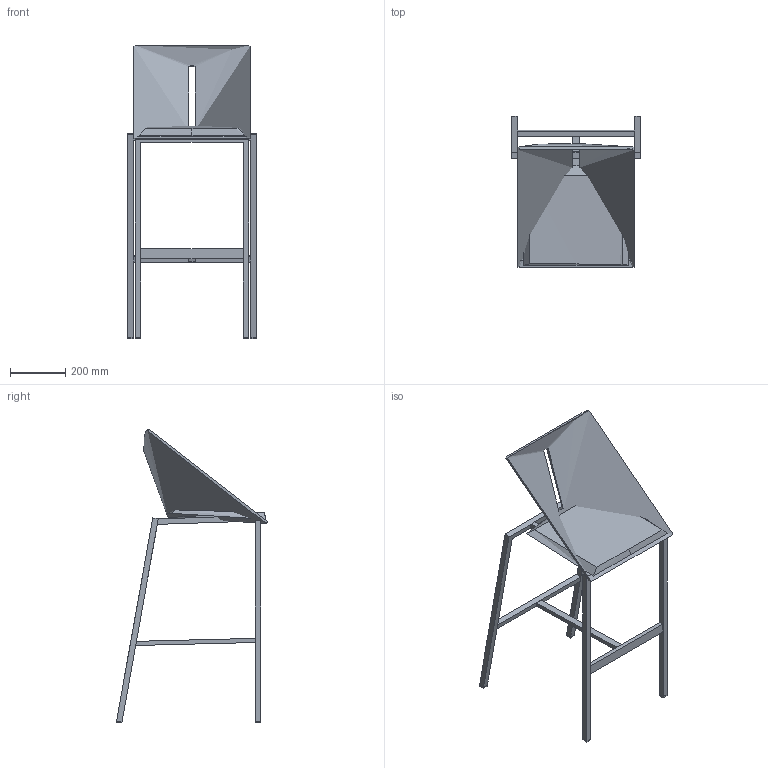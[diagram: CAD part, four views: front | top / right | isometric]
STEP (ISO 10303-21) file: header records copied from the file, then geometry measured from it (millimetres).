
FILE_DESCRIPTION(/* description */ (''),/* implementation_level */ '2;1');
FILE_NAME(/* name */ 'TWFADD~1',/* time_stamp */ '2016-06-28T23:23:02+02:00',/* author */ (''),/* organization */ (''),/* preprocessor_version */ 'ST-DEVELOPER v15',/* originating_system */ '',/* authorisation */ '');
FILE_SCHEMA (('CONFIG_CONTROL_DESIGN'));
Length unit declared in the file: millimetre
Products named in the file (1): Document
Bounding box: 465 x 547.92 x 1060.95 mm (x, y, z)
Volume: 2641264.3 mm3; surface area: 937681.5 mm2
Topology: 1 solids, 9 shells, 101 faces, 279 edges, 181 vertices
Faces by surface type: plane 70, bspline 31
Entity records: 9104 total; most frequent: CARTESIAN_POINT 7240, ORIENTED_EDGE 503, EDGE_CURVE 276, B_SPLINE_CURVE_WITH_KNOTS 250, VERTEX_POINT 177, EDGE_LOOP 106, ADVANCED_FACE 101, FACE_OUTER_BOUND 101
